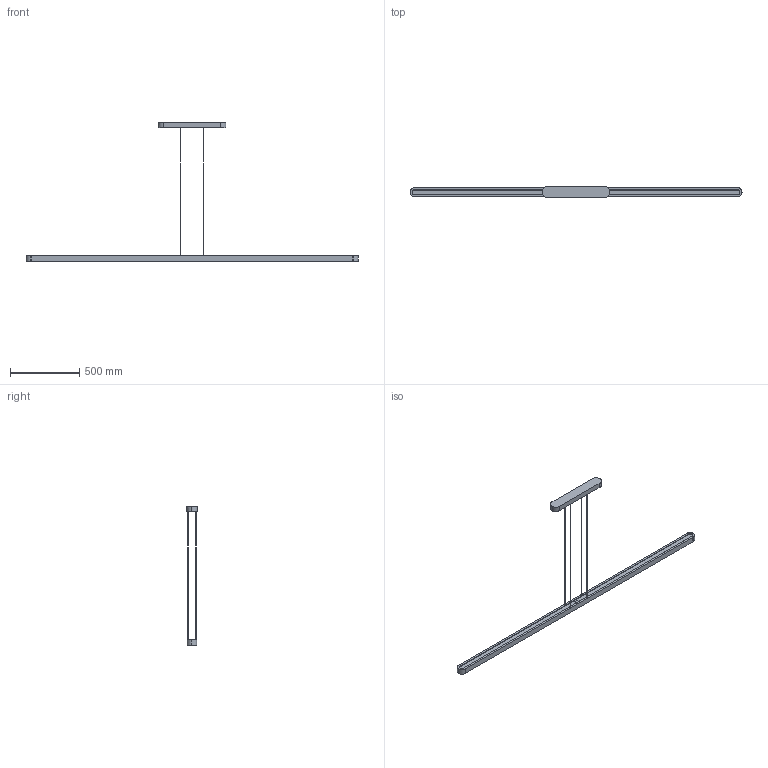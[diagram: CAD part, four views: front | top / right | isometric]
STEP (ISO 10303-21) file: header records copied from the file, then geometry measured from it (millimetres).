
FILE_DESCRIPTION(/* description */ (''),/* implementation_level */ '2;1');
FILE_NAME(/* name */ 'Talo_Sospensione_240_3D',/* time_stamp */ '2012-01-31T14:31:38+01:00',/* author */ (''),/* organization */ (''),/* preprocessor_version */ 'ST-DEVELOPER v10',/* originating_system */ '',/* authorisation */ '');
FILE_SCHEMA (('CONFIG_CONTROL_DESIGN'));
Length unit declared in the file: millimetre
Products named in the file (1): 1
Bounding box: 2395 x 78 x 1000 mm (x, y, z)
Volume: 5441758 mm3; surface area: 1352188 mm2
Topology: 5 solids, 5 shells, 130 faces, 326 edges, 216 vertices
Faces by surface type: bspline 76, plane 54
Entity records: 4347 total; most frequent: CARTESIAN_POINT 2294, ORIENTED_EDGE 652, EDGE_CURVE 326, VERTEX_POINT 216, B_SPLINE_CURVE_WITH_KNOTS 179, EDGE_LOOP 144, ADVANCED_FACE 130, FACE_OUTER_BOUND 130
